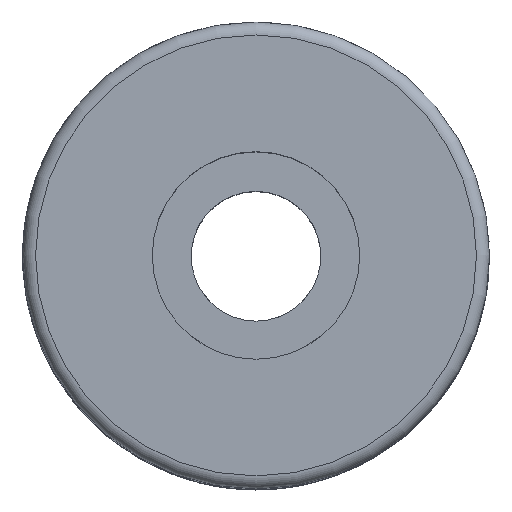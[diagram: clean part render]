
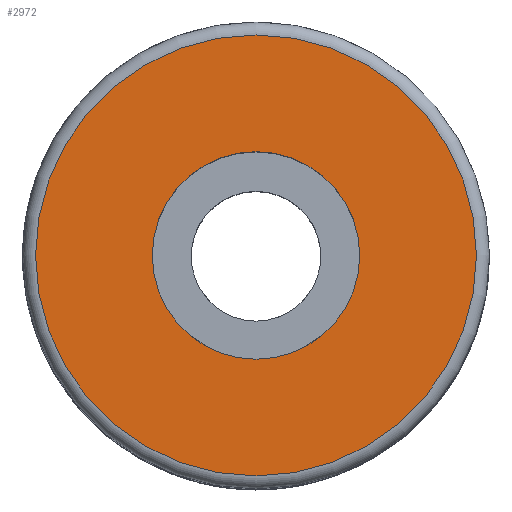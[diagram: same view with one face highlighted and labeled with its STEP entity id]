
A CAD part, top view. The second image highlights one B-rep face of the part: STEP entity #2972.
In plain terms, the highlighted planar face has unit normal (0, 0, 1).
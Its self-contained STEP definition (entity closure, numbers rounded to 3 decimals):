
#36 = EDGE_CURVE('',#37,#37,#39,.T.);
#37 = VERTEX_POINT('',#38);
#38 = CARTESIAN_POINT('',(4.,0.,25.));
#39 = SURFACE_CURVE('',#40,(#45,#57),.PCURVE_S1.);
#40 = CIRCLE('',#41,4.);
#41 = AXIS2_PLACEMENT_3D('',#42,#43,#44);
#42 = CARTESIAN_POINT('',(0.,0.,25.));
#43 = DIRECTION('',(0.,0.,1.));
#44 = DIRECTION('',(1.,0.,0.));
#45 = PCURVE('',#46,#51);
#46 = CYLINDRICAL_SURFACE('',#47,4.);
#47 = AXIS2_PLACEMENT_3D('',#48,#49,#50);
#48 = CARTESIAN_POINT('',(0.,0.,25.));
#49 = DIRECTION('',(0.,0.,1.));
#50 = DIRECTION('',(1.,0.,0.));
#51 = DEFINITIONAL_REPRESENTATION('',(#52),#56);
#52 = LINE('',#53,#54);
#53 = CARTESIAN_POINT('',(0.,0.));
#54 = VECTOR('',#55,1.);
#55 = DIRECTION('',(1.,0.));
#56 = ( GEOMETRIC_REPRESENTATION_CONTEXT(2) 
PARAMETRIC_REPRESENTATION_CONTEXT() REPRESENTATION_CONTEXT('2D SPACE',''
  ) );
#57 = PCURVE('',#58,#63);
#58 = PLANE('',#59);
#59 = AXIS2_PLACEMENT_3D('',#60,#61,#62);
#60 = CARTESIAN_POINT('',(0.,0.,25.));
#61 = DIRECTION('',(0.,0.,1.));
#62 = DIRECTION('',(1.,0.,0.));
#63 = DEFINITIONAL_REPRESENTATION('',(#64),#68);
#64 = CIRCLE('',#65,4.);
#65 = AXIS2_PLACEMENT_2D('',#66,#67);
#66 = CARTESIAN_POINT('',(0.,0.));
#67 = DIRECTION('',(1.,0.));
#68 = ( GEOMETRIC_REPRESENTATION_CONTEXT(2) 
PARAMETRIC_REPRESENTATION_CONTEXT() REPRESENTATION_CONTEXT('2D SPACE',''
  ) );
#2972 = ADVANCED_FACE('',(#2973,#3004),#58,.T.);
#2973 = FACE_BOUND('',#2974,.T.);
#2974 = EDGE_LOOP('',(#2975));
#2975 = ORIENTED_EDGE('',*,*,#2976,.T.);
#2976 = EDGE_CURVE('',#2977,#2977,#2979,.T.);
#2977 = VERTEX_POINT('',#2978);
#2978 = CARTESIAN_POINT('',(8.5,0.,25.));
#2979 = SURFACE_CURVE('',#2980,(#2985,#2992),.PCURVE_S1.);
#2980 = CIRCLE('',#2981,8.5);
#2981 = AXIS2_PLACEMENT_3D('',#2982,#2983,#2984);
#2982 = CARTESIAN_POINT('',(0.,0.,25.));
#2983 = DIRECTION('',(0.,0.,1.));
#2984 = DIRECTION('',(1.,0.,0.));
#2985 = PCURVE('',#58,#2986);
#2986 = DEFINITIONAL_REPRESENTATION('',(#2987),#2991);
#2987 = CIRCLE('',#2988,8.5);
#2988 = AXIS2_PLACEMENT_2D('',#2989,#2990);
#2989 = CARTESIAN_POINT('',(0.,0.));
#2990 = DIRECTION('',(1.,0.));
#2991 = ( GEOMETRIC_REPRESENTATION_CONTEXT(2) 
PARAMETRIC_REPRESENTATION_CONTEXT() REPRESENTATION_CONTEXT('2D SPACE',''
  ) );
#2992 = PCURVE('',#2993,#2998);
#2993 = TOROIDAL_SURFACE('',#2994,8.5,0.5);
#2994 = AXIS2_PLACEMENT_3D('',#2995,#2996,#2997);
#2995 = CARTESIAN_POINT('',(0.,0.,24.5));
#2996 = DIRECTION('',(0.,0.,1.));
#2997 = DIRECTION('',(1.,0.,0.));
#2998 = DEFINITIONAL_REPRESENTATION('',(#2999),#3003);
#2999 = LINE('',#3000,#3001);
#3000 = CARTESIAN_POINT('',(0.,7.854));
#3001 = VECTOR('',#3002,1.);
#3002 = DIRECTION('',(1.,0.));
#3003 = ( GEOMETRIC_REPRESENTATION_CONTEXT(2) 
PARAMETRIC_REPRESENTATION_CONTEXT() REPRESENTATION_CONTEXT('2D SPACE',''
  ) );
#3004 = FACE_BOUND('',#3005,.T.);
#3005 = EDGE_LOOP('',(#3006));
#3006 = ORIENTED_EDGE('',*,*,#36,.F.);
